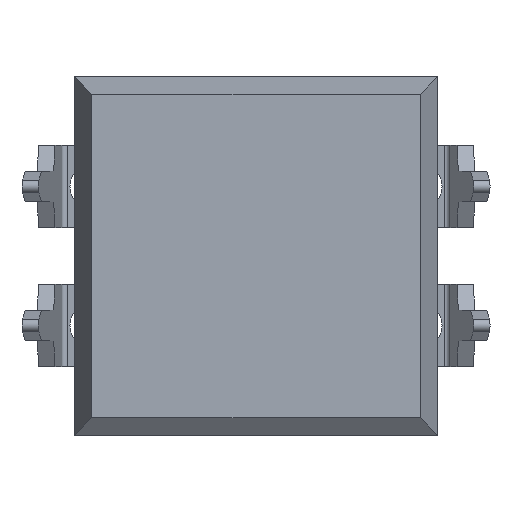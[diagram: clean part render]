
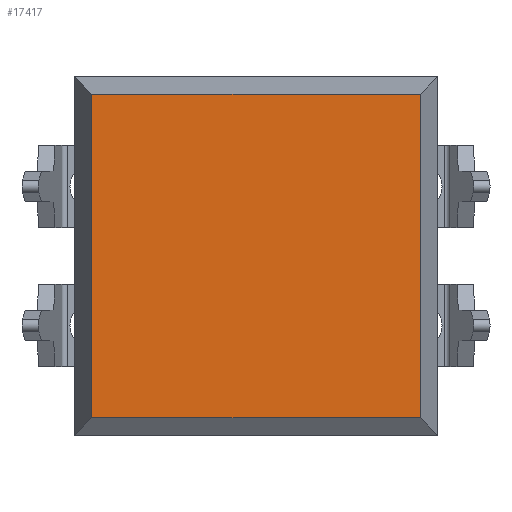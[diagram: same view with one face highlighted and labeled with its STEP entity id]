
A CAD part, front view. The second image highlights one B-rep face of the part: STEP entity #17417.
In plain terms, the highlighted planar face has unit normal (0, -1, 0).
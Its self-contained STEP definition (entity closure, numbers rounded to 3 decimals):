
#115 = CARTESIAN_POINT ( 'NONE',  ( -2.997, 0., 6.56 ) ) ;
#220 = EDGE_LOOP ( 'NONE', ( #12263, #2612, #10119, #14716 ) ) ;
#1802 = LINE ( 'NONE', #7538, #13825 ) ;
#1901 = CARTESIAN_POINT ( 'NONE',  ( -2.997, 0., 6.56 ) ) ;
#2243 = LINE ( 'NONE', #7975, #10710 ) ;
#2612 = ORIENTED_EDGE ( 'NONE', *, *, #10784, .T. ) ;
#3046 = CARTESIAN_POINT ( 'NONE',  ( 2.997, 0., 6.56 ) ) ;
#3525 = VERTEX_POINT ( 'NONE', #5587 ) ;
#5211 = VERTEX_POINT ( 'NONE', #17716 ) ;
#5587 = CARTESIAN_POINT ( 'NONE',  ( 2.997, 0., 6.232 ) ) ;
#5863 = DIRECTION ( 'NONE',  ( 0., 0., -1. ) ) ;
#7237 = CARTESIAN_POINT ( 'NONE',  ( 2.997, 0., 0.328 ) ) ;
#7538 = CARTESIAN_POINT ( 'NONE',  ( 3.325, 0., 6.232 ) ) ;
#7636 = DIRECTION ( 'NONE',  ( 0., 1., 0. ) ) ;
#7975 = CARTESIAN_POINT ( 'NONE',  ( 3.325, 0., 0.328 ) ) ;
#8785 = DIRECTION ( 'NONE',  ( 0., 0., -1. ) ) ;
#9048 = FACE_OUTER_BOUND ( 'NONE', #220, .T. ) ;
#9495 = EDGE_CURVE ( 'NONE', #3525, #11894, #15935, .T. ) ;
#10119 = ORIENTED_EDGE ( 'NONE', *, *, #15264, .T. ) ;
#10710 = VECTOR ( 'NONE', #13704, 1000. ) ;
#10784 = EDGE_CURVE ( 'NONE', #3525, #13306, #1802, .T. ) ;
#11894 = VERTEX_POINT ( 'NONE', #7237 ) ;
#12263 = ORIENTED_EDGE ( 'NONE', *, *, #9495, .F. ) ;
#13002 = LINE ( 'NONE', #115, #13262 ) ;
#13259 = DIRECTION ( 'NONE',  ( -1., 0., 0. ) ) ;
#13262 = VECTOR ( 'NONE', #5863, 1000. ) ;
#13306 = VERTEX_POINT ( 'NONE', #17286 ) ;
#13366 = DIRECTION ( 'NONE',  ( 0., 0., 1. ) ) ;
#13506 = EDGE_CURVE ( 'NONE', #11894, #5211, #2243, .T. ) ;
#13704 = DIRECTION ( 'NONE',  ( -1., 0., 0. ) ) ;
#13825 = VECTOR ( 'NONE', #13259, 1000. ) ;
#14716 = ORIENTED_EDGE ( 'NONE', *, *, #13506, .F. ) ;
#14779 = PLANE ( 'NONE',  #16853 ) ;
#15264 = EDGE_CURVE ( 'NONE', #13306, #5211, #13002, .T. ) ;
#15467 = VECTOR ( 'NONE', #8785, 1000. ) ;
#15935 = LINE ( 'NONE', #3046, #15467 ) ;
#16853 = AXIS2_PLACEMENT_3D ( 'NONE', #1901, #7636, #13366 ) ;
#17286 = CARTESIAN_POINT ( 'NONE',  ( -2.997, 0., 6.232 ) ) ;
#17417 = ADVANCED_FACE ( 'NONE', ( #9048 ), #14779, .F. ) ;
#17716 = CARTESIAN_POINT ( 'NONE',  ( -2.997, 0., 0.328 ) ) ;
